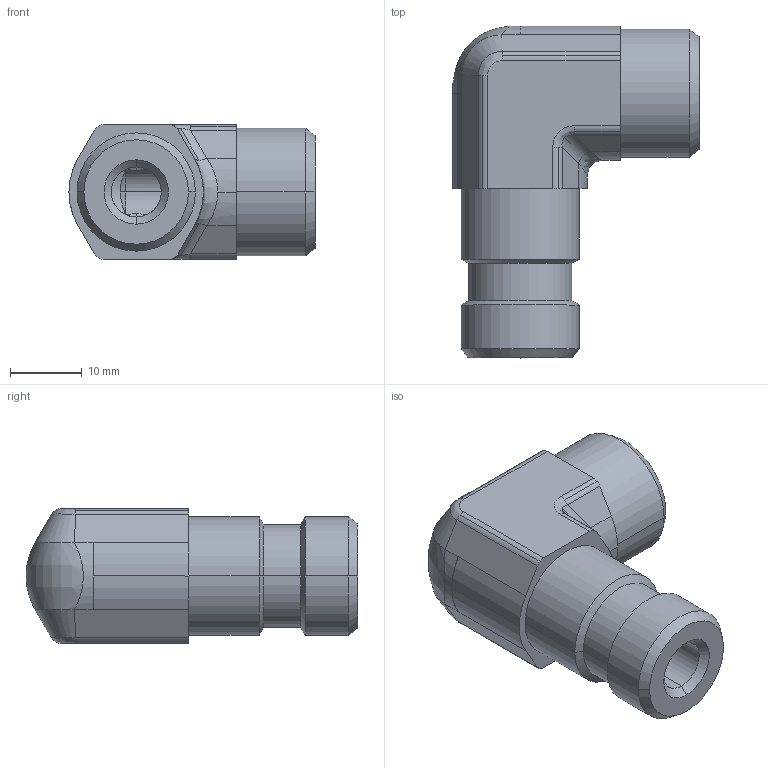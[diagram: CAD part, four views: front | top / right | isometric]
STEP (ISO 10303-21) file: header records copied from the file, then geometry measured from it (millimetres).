
FILE_DESCRIPTION((''),'2;1');
FILE_NAME('106116.stp','2007-10-31T14:49:46',(''),(''),'AutoCAD STEP 2000i','AutoCAD 2000i',', , ');
FILE_SCHEMA(('CONFIG_CONTROL_DESIGN'));
Length unit declared in the file: millimetre
Products named in the file (2): 106116.0; 3090#0
Assembly tree (1 placements, depth 2):
  106116.0
    3090#0
Bounding box: 34.4 x 46.4 x 18.8 mm (x, y, z)
Volume: 12626.9 mm3; surface area: 5348 mm2
Topology: 1 solids, 1 shells, 100 faces, 228 edges, 133 vertices
Faces by surface type: cylinder 48, cone 21, plane 19, bspline 12
Entity records: 3578 total; most frequent: CARTESIAN_POINT 1213, DIRECTION 505, ORIENTED_EDGE 456, EDGE_CURVE 228, AXIS2_PLACEMENT_3D 207, VERTEX_POINT 133, EDGE_LOOP 105, FACE_OUTER_BOUND 100
